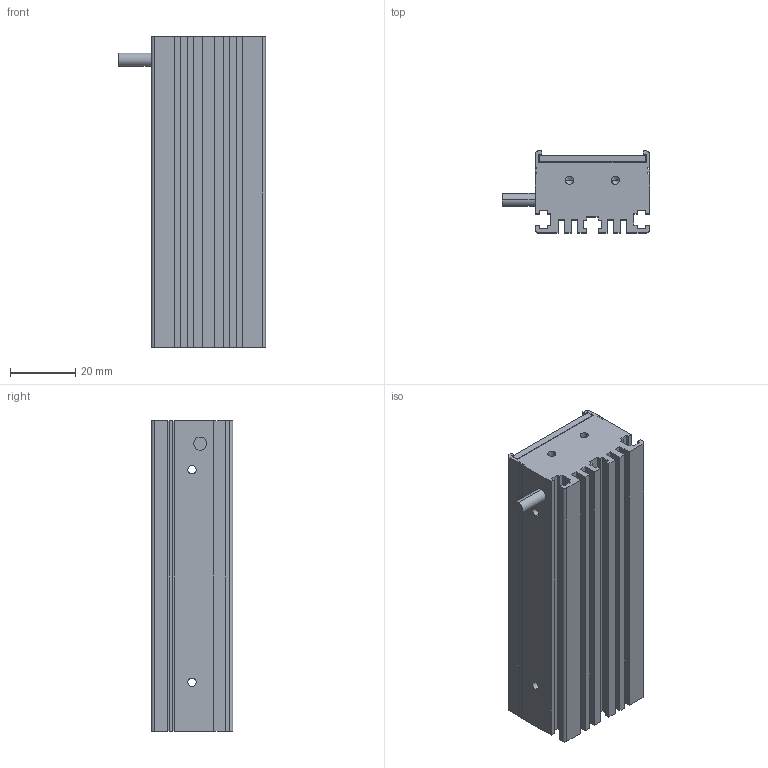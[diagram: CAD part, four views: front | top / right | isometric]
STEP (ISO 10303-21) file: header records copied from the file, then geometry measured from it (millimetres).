
FILE_DESCRIPTION (( 'STEP AP203' ), '1' );
FILE_NAME ('GTR9535-W.STEP', '2022-08-26T02:49:35', ( 'Windows User' ), ( 'P R C' ), 'SwSTEP 2.0', 'SolidWorks 2016', '' );
FILE_SCHEMA (( 'CONFIG_CONTROL_DESIGN' ));
Length unit declared in the file: millimetre
Products named in the file (1): GTR9535-W
Bounding box: 45 x 25 x 95 mm (x, y, z)
Volume: 40298.1 mm3; surface area: 31193.9 mm2
Topology: 2 solids, 2 shells, 486 faces, 1216 edges, 804 vertices
Faces by surface type: plane 456, cylinder 22, cone 8
Entity records: 14255 total; most frequent: CARTESIAN_POINT 2499, ORIENTED_EDGE 2416, DIRECTION 2226, EDGE_CURVE 1208, VECTOR 1164, LINE 1164, VERTEX_POINT 804, EDGE_LOOP 572
